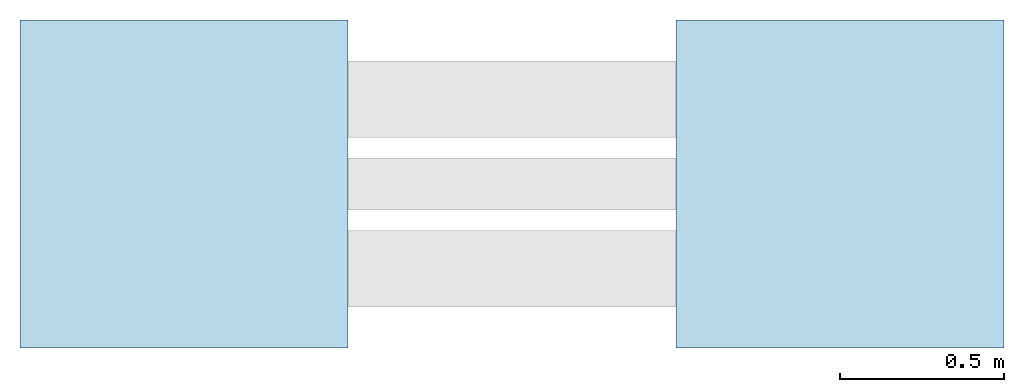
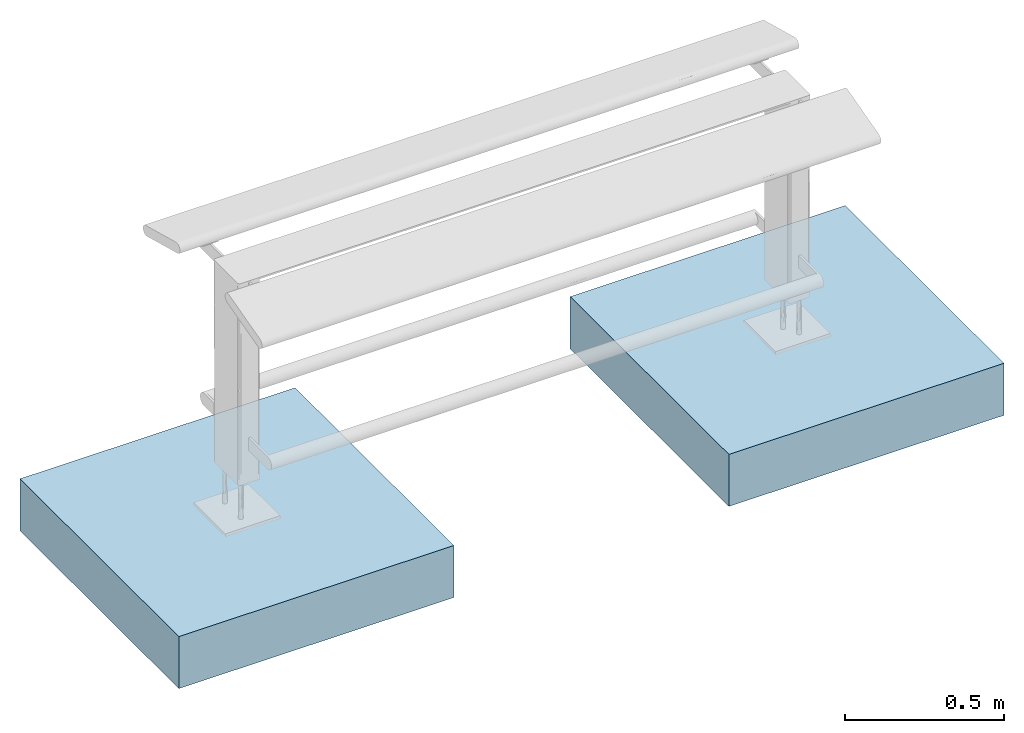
# One storey, incomplete: 2 slabs.
"""IFC4 building model written with IfcOpenShell, lengths in metres."""

from ifc_helpers import new_model, entity, si_unit, converted_unit, direction, frame, frame_2d, origin, origin_2d_with_axis, place, context, subcontext, project, spatial, rectangle, extrude, material, type_object, element, save


model = new_model("IFC4")

# Units and contexts
model_context = context("Model", 3, precision=1e-05, world=origin(), true_north=direction((6.123031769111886e-17, 1.0)))
body_context = subcontext(model_context, "Body", "Model", "MODEL_VIEW")
ifc_project = project(units=[si_unit("LENGTHUNIT", "METRE"), converted_unit("PLANEANGLEUNIT", "DEGREE", entity("IfcPlaneAngleMeasure", 0.017453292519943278), si_unit("PLANEANGLEUNIT", "RADIAN"), dimensions=[0, 0, 0, 0, 0, 0, 0]), si_unit("AREAUNIT", "SQUARE_METRE")], contexts=[model_context])

# Site, building, storey
site_placement = place(None, origin())
site = spatial("IfcSite", under=ifc_project, at=site_placement, Name="Default", CompositionType="ELEMENT")
building_placement = place(site_placement, origin())
building = spatial("IfcBuilding", under=site, at=building_placement, CompositionType="ELEMENT")
storey_placement = place(building_placement, origin())
storey = spatial("IfcBuildingStorey", under=building, at=storey_placement, Name="Ebene 0", CompositionType="ELEMENT", Elevation=0.0)

# Slabs
ifc_material = material(Name="DB_Fertigbeton", Category="DB_Beton")
slab_type = type_object("IfcSlabType", Name="DB_Calidum_light_Fundament:DB_Calidum_light_Fundament", PredefinedType="BASESLAB", material=ifc_material)
slab_1_placement = place(storey_placement, origin())
element("IfcSlab", 1, at=slab_1_placement, inside=storey, type_object=slab_type, Name="DB_Calidum_light_Fundament:DB_Calidum_light_Fundament", ObjectType="DB_Calidum_light_Fundament:DB_Calidum_light_Fundament", PredefinedType="BASESLAB", context=body_context, shape_type="SweptSolid", body=[
    extrude(rectangle(XDim=0.9999999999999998, YDim=0.9999999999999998, at=origin_2d_with_axis()), frame((1.0, 0.0, -0.3619999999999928), z_axis=(0.0, 0.0, 1.0), x_axis=(0.0, 1.0, 0.0)), (0.0, 0.0, 1.0), 0.2),
])
slab_2_placement = place(storey_placement, origin())
element("IfcSlab", 2, at=slab_2_placement, inside=storey, type_object=slab_type, Name="DB_Calidum_light_Fundament:DB_Calidum_light_Fundament", ObjectType="DB_Calidum_light_Fundament:DB_Calidum_light_Fundament", PredefinedType="BASESLAB", context=body_context, shape_type="SweptSolid", body=[
    extrude(rectangle(XDim=0.9999999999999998, YDim=0.9999999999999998, at=frame_2d((-2.7755575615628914e-17, 1.1102230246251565e-16), x_axis=(1.0, 0.0))), frame((-1.0, 0.0, -0.3619999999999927), z_axis=(0.0, 0.0, 1.0), x_axis=(0.0, 1.0, 0.0)), (0.0, 0.0, 1.0), 0.2),
])

save(model, "model.ifc")
